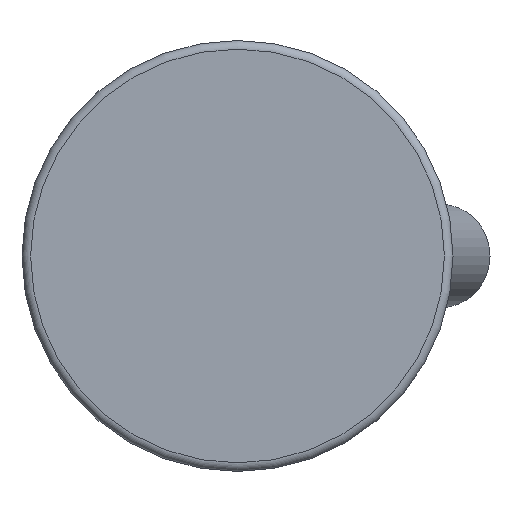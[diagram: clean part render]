
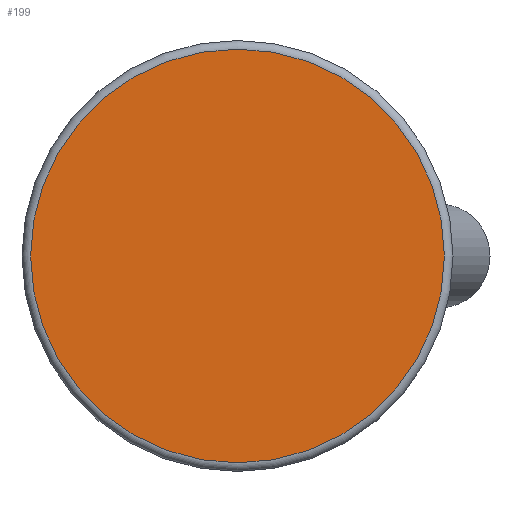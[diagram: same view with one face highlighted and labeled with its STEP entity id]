
A CAD part, front view. The second image highlights one B-rep face of the part: STEP entity #199.
In plain terms, the highlighted planar face has unit normal (0, -1, 0).
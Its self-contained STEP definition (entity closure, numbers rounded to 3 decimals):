
#199 = ADVANCED_FACE( '', ( #393 ), #394, .F. );
#393 = FACE_OUTER_BOUND( '', #593, .T. );
#394 = PLANE( '', #594 );
#593 = EDGE_LOOP( '', ( #906 ) );
#594 = AXIS2_PLACEMENT_3D( '', #907, #908, #909 );
#906 = ORIENTED_EDGE( '', *, *, #1187, .T. );
#907 = CARTESIAN_POINT( '', ( 24., 0., 0. ) );
#908 = DIRECTION( '', ( 0., 1., 0. ) );
#909 = DIRECTION( '', ( 0., 0., 1. ) );
#1187 = EDGE_CURVE( '', #1389, #1389, #1390, .T. );
#1389 = VERTEX_POINT( '', #1781 );
#1390 = CIRCLE( '', #1782, 24. );
#1781 = CARTESIAN_POINT( '', ( 0., 0., -24. ) );
#1782 = AXIS2_PLACEMENT_3D( '', #2066, #2067, #2068 );
#2066 = CARTESIAN_POINT( '', ( 0., 0., 0. ) );
#2067 = DIRECTION( '', ( 0., -1., 0. ) );
#2068 = DIRECTION( '', ( 0., 0., -1. ) );
